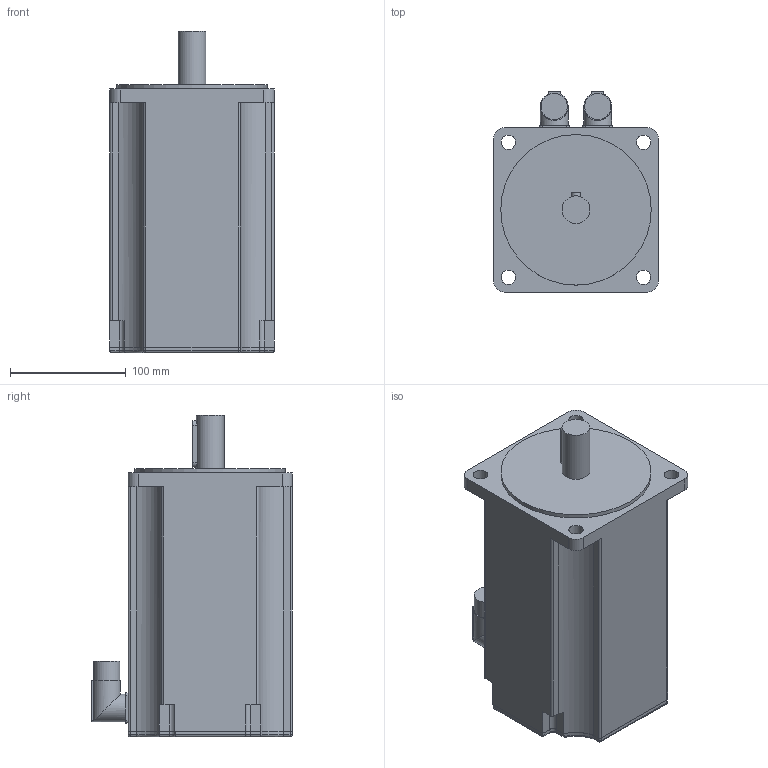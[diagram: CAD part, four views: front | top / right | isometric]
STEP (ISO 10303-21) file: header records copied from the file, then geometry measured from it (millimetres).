
FILE_DESCRIPTION(/* description */ (''),/* implementation_level */ '2;1');
FILE_NAME(/* name */ '\\Lafnas01\disegni\Archivi Lafert\3D\CAD 3D\MODELLI\Assiemi clienti\Serad\Modelli 3D Serad\B71Q\Resolver\Res With Brake\B7112Qxx6B052033.ipt.stp',/* time_stamp */ '2015-09-07T10:52:50+02:00',/* author */ ('Pastrello Ylenia'),/* organization */ (''),/* preprocessor_version */ 'ST-DEVELOPER v15.6',/* originating_system */ 'Autodesk Inventor 2015',/* authorisation */ '');
FILE_SCHEMA (('AUTOMOTIVE_DESIGN { 1 0 10303 214 3 1 1 }'));
Length unit declared in the file: millimetre
Products named in the file (1): B7112Qxx6B052033
Bounding box: 142 x 173.5 x 278 mm (x, y, z)
Volume: 4095371.2 mm3; surface area: 173339 mm2
Topology: 1 solids, 1 shells, 154 faces, 400 edges, 258 vertices
Faces by surface type: plane 72, cylinder 70, torus 8, sphere 4
Full cylindrical faces by diameter (mm): 12.5 x4, 22.7 x2, 24 x3, 130 x1
Entity records: 4790 total; most frequent: CARTESIAN_POINT 933, DIRECTION 828, ORIENTED_EDGE 772, EDGE_CURVE 386, AXIS2_PLACEMENT_3D 297, VERTEX_POINT 254, LINE 234, VECTOR 234
